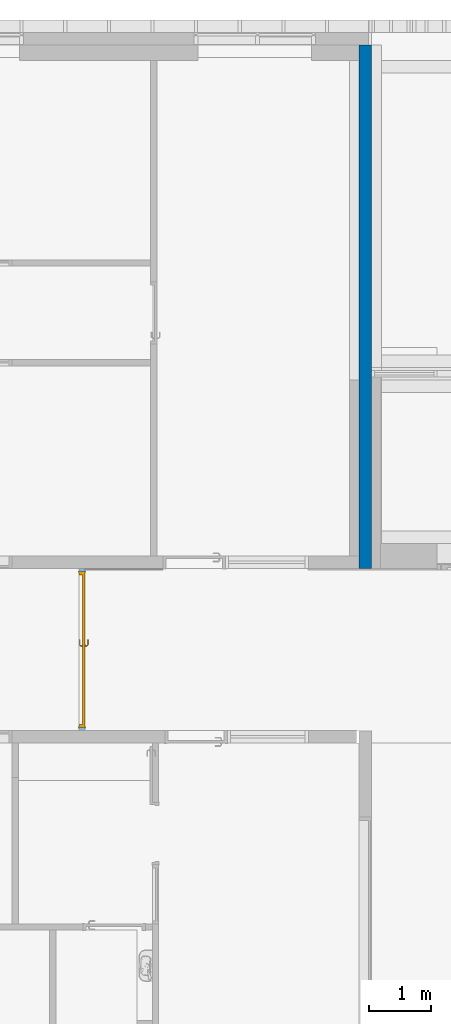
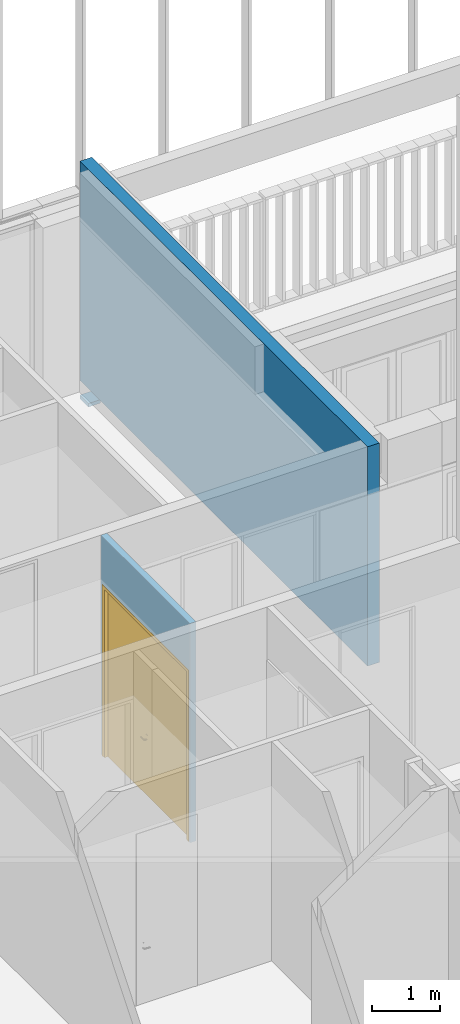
# One storey, part 220 of 240: 1 door, 1 wall, 1 opening, plus 1 element that does not belong to this part.
"""IFC2X3 building model written with IfcOpenShell, lengths in centimetres."""

import ifcopenshell
import ifcopenshell.guid

model = None  # the IFC model being written
_history = None  # IfcOwnerHistory: only IFC2X3 demands one
_inside = {}  # id of a spatial element -> (the spatial element, [elements in it])
_under = {}  # id of a project, library or spatial element -> (it, [spatial elements below it])
_declared = {}  # id of a project -> (the project, [libraries it declares])
_typed = {}  # id of a type object -> (the type object, [elements of that type])
_made_of = {}  # id of a material, layer set ... -> (it, [elements and type objects made of it])


def new_model(schema):
    """Start an empty IFC model of exactly this schema.

    Asked for "IFC4X3", IfcOpenShell would pick the latest addendum, in which some entities
    have other attributes; the version numbers below select the first issue.
    IFC2X3 requires an IfcOwnerHistory on every rooted entity: one is made here for all.
    """
    global model, _history
    if schema == "IFC4X3":
        model = ifcopenshell.file(schema_version=(4, 3, 0, 0))
    else:
        model = ifcopenshell.file(schema=schema)
    _inside.clear()
    _under.clear()
    _declared.clear()
    _typed.clear()
    _made_of.clear()
    _history = None
    if model.schema == "IFC2X3":
        org = make("IfcOrganization", Name="unknown")
        user = make(
            "IfcPersonAndOrganization",
            ThePerson=make("IfcPerson", FamilyName="unknown"),
            TheOrganization=org,
        )
        app = make(
            "IfcApplication",
            ApplicationDeveloper=org,
            Version="unknown",
            ApplicationFullName="unknown",
            ApplicationIdentifier="unknown",
        )
        _history = make(
            "IfcOwnerHistory",
            OwningUser=user,
            OwningApplication=app,
            ChangeAction="ADDED",
            CreationDate=0,
        )
    return model


def make(cls, **values):
    """One entity of the class cls with the attributes given. An attribute that is None is left unset."""
    return model.create_entity(
        cls, **{name: value for name, value in values.items() if value is not None}
    )


def entity(cls, *values):
    """Any entity or typed value of the class cls, its attributes in the order of the schema. None: left unset."""
    e = model.create_entity(cls)
    for i, value in enumerate(values):
        if value is not None:
            e[i] = value
    return e


def rooted(cls, **values):
    """An entity with a GlobalId (a new one), such as an element, a storey or a relation."""
    return make(cls, GlobalId=ifcopenshell.guid.new(), OwnerHistory=_history, **values)


def si_unit(unit_type, name, prefix=None):
    """IfcSIUnit, for example si_unit("LENGTHUNIT", "METRE", prefix="MILLI")."""
    return make("IfcSIUnit", UnitType=unit_type, Prefix=prefix, Name=name)


def converted_unit(unit_type, name, factor, base, dimensions=None, offset=None):
    """IfcConversionBasedUnit, such as the inch: factor (a typed value) times the base unit."""
    return make(
        "IfcConversionBasedUnit"
        if offset is None
        else "IfcConversionBasedUnitWithOffset",
        ConversionOffset=offset,
        Dimensions=None
        if dimensions is None
        else entity("IfcDimensionalExponents", *dimensions),
        UnitType=unit_type,
        Name=name,
        ConversionFactor=make(
            "IfcMeasureWithUnit", ValueComponent=factor, UnitComponent=base
        ),
    )


def derived_unit(unit_type, elements):
    """IfcDerivedUnit: a product of units, each with its exponent."""
    return make(
        "IfcDerivedUnit",
        Elements=[
            make("IfcDerivedUnitElement", Unit=unit, Exponent=power)
            for unit, power in elements
        ],
        UnitType=unit_type,
    )


def assignment(units):
    """IfcUnitAssignment: the units of a project."""
    return None if units is None else make("IfcUnitAssignment", Units=units)


def point(xyz):
    """IfcCartesianPoint."""
    return None if xyz is None else make("IfcCartesianPoint", Coordinates=xyz)


def direction(xyz):
    """IfcDirection."""
    return None if xyz is None else make("IfcDirection", DirectionRatios=xyz)


def frame(location, z_axis=None, x_axis=None):
    """IfcAxis2Placement3D, a coordinate frame: its origin and axes. An axis left out is left unset."""
    return make(
        "IfcAxis2Placement3D",
        Location=point(location),
        Axis=direction(z_axis),
        RefDirection=direction(x_axis),
    )


def frame_2d(location, x_axis=None):
    """IfcAxis2Placement2D, a coordinate frame in the plane: its origin and x axis."""
    return make(
        "IfcAxis2Placement2D", Location=point(location), RefDirection=direction(x_axis)
    )


def origin():
    """The frame at (0, 0, 0) with its axes left unset."""
    return frame((0.0, 0.0, 0.0))


def place(relative_to, where):
    """IfcLocalPlacement: puts the frame where relative to a parent placement (None: the world)."""
    return make(
        "IfcLocalPlacement", PlacementRelTo=relative_to, RelativePlacement=where
    )


def context(
    kind, dimensions, precision=None, world=None, true_north=None, identifier=None
):
    """IfcGeometricRepresentationContext, for example the 3D "Model" context."""
    return make(
        "IfcGeometricRepresentationContext",
        ContextIdentifier=identifier,
        ContextType=kind,
        CoordinateSpaceDimension=dimensions,
        Precision=precision,
        WorldCoordinateSystem=world,
        TrueNorth=true_north,
    )


def subcontext(parent, identifier, kind, view, scale=None):
    """IfcGeometricRepresentationSubContext, for example "Body" below "Model"."""
    return make(
        "IfcGeometricRepresentationSubContext",
        ContextIdentifier=identifier,
        ContextType=kind,
        ParentContext=parent,
        TargetScale=scale,
        TargetView=view,
    )


def project(units=None, contexts=None):
    """IfcProject with its units and contexts."""
    return rooted(
        "IfcProject",
        Name="project",
        RepresentationContexts=contexts,
        UnitsInContext=assignment(units),
    )


def spatial(cls, under=None, at=None, **own):
    """A site, building, storey or space (cls), placed at a placement, below another one or the project."""
    s = rooted(cls, ObjectPlacement=at, **own)
    if under is not None:
        _under.setdefault(under.id(), (under, []))[1].append(s)
    return s


def profile(cls, at=None, kind="AREA", **sizes):
    """A parametric profile (cls). Its sizes go by their IFC names, for example OverallWidth=200.0."""
    return make(cls, ProfileType=kind, Position=at, **sizes)


def rectangle(**sizes):
    """IfcRectangleProfileDef."""
    return profile("IfcRectangleProfileDef", **sizes)


def extrude(swept, where, along, depth):
    """IfcExtrudedAreaSolid: the profile swept, set in the frame where, extruded along a direction by depth."""
    return make(
        "IfcExtrudedAreaSolid",
        SweptArea=swept,
        Position=where,
        ExtrudedDirection=direction(along),
        Depth=depth,
    )


def faces_of(points, faces, orient=None, outer=None):
    """IfcFace entities. A face is a list of loops; a loop is a list of indices into points, from 0.

    orient and outer hold one flag for each loop. By default every Orientation is true, the
    first loop of a face is its IfcFaceOuterBound and the others are IfcFaceBound.
    """
    made = []
    for i, loops in enumerate(faces):
        bounds = []
        for j, loop in enumerate(loops):
            is_outer = j == 0 if outer is None else outer[i][j]
            bounds.append(
                make(
                    "IfcFaceOuterBound" if is_outer else "IfcFaceBound",
                    Bound=make("IfcPolyLoop", Polygon=[points[k] for k in loop]),
                    Orientation=True if orient is None else orient[i][j],
                )
            )
        made.append(make("IfcFace", Bounds=bounds))
    return made


def faceted_brep(points, faces, orient=None, outer=None, voids=None):
    """IfcFacetedBrep: a solid bounded by flat faces; with voids (closed shells), ...WithVoids."""
    shared = [point(p) for p in points]
    hull = make("IfcClosedShell", CfsFaces=faces_of(shared, faces, orient, outer))
    if voids is None:
        return make("IfcFacetedBrep", Outer=hull)
    return make(
        "IfcFacetedBrepWithVoids",
        Outer=hull,
        Voids=[
            make(cls, CfsFaces=faces_of(shared, fs, o, b)) for cls, fs, o, b in voids
        ],
    )


def shape(context_of_items, identifier, shape_type, items):
    """IfcShapeRepresentation: the items that make up one representation, for example the "Body"."""
    return make(
        "IfcShapeRepresentation",
        ContextOfItems=context_of_items,
        RepresentationIdentifier=identifier,
        RepresentationType=shape_type,
        Items=items,
    )


def source(mapping_origin, context_of_items, identifier, shape_type, items):
    """IfcRepresentationMap: a shape defined once, which mapped items show again and again."""
    return make(
        "IfcRepresentationMap",
        MappingOrigin=mapping_origin,
        MappedRepresentation=shape(context_of_items, identifier, shape_type, items),
    )


def transform(
    local_origin,
    x_axis=None,
    y_axis=None,
    z_axis=None,
    scale=None,
    scale2=None,
    scale3=None,
    uniform=True,
):
    """IfcCartesianTransformationOperator3D, or its non-uniform kind. x_axis, y_axis, z_axis: its Axis1, 2, 3."""
    if uniform:
        return make(
            "IfcCartesianTransformationOperator3D",
            Axis1=direction(x_axis),
            Axis2=direction(y_axis),
            LocalOrigin=point(local_origin),
            Scale=scale,
            Axis3=direction(z_axis),
        )
    return make(
        "IfcCartesianTransformationOperator3DnonUniform",
        Axis1=direction(x_axis),
        Axis2=direction(y_axis),
        LocalOrigin=point(local_origin),
        Scale=scale,
        Axis3=direction(z_axis),
        Scale2=scale2,
        Scale3=scale3,
    )


def mapped(mapping_source, mapping_target):
    """IfcMappedItem: shows the shape of a source again, moved by a transform."""
    return make(
        "IfcMappedItem", MappingSource=mapping_source, MappingTarget=mapping_target
    )


def material(Name=None, Category=None):
    """IfcMaterial."""
    return make("IfcMaterial", Name=Name, Category=Category)


def material_list(materials):
    """IfcMaterialList."""
    return make("IfcMaterialList", Materials=materials)


def layer(
    of_material, thickness, ventilated=None, Name=None, Category=None, Priority=None
):
    """IfcMaterialLayer: one layer of a wall or slab, of a material (None: an air gap)."""
    return make(
        "IfcMaterialLayer",
        Material=of_material,
        LayerThickness=thickness,
        IsVentilated=ventilated,
        Name=Name,
        Category=Category,
        Priority=Priority,
    )


def layer_set(layers, Name=None):
    """IfcMaterialLayerSet."""
    return make("IfcMaterialLayerSet", MaterialLayers=layers, LayerSetName=Name)


def layer_usage(for_layer_set, set_direction, sense, offset, extent=None):
    """IfcMaterialLayerSetUsage: how a layer set lies in its element."""
    return make(
        "IfcMaterialLayerSetUsage",
        ForLayerSet=for_layer_set,
        LayerSetDirection=set_direction,
        DirectionSense=sense,
        OffsetFromReferenceLine=offset,
        ReferenceExtent=extent,
    )


def made_of(thing, what):
    """Note that an element or type object is made of a material, layer set ...; save() writes the relation."""
    if what is not None:
        _made_of.setdefault(what.id(), (what, []))[1].append(thing)
    return thing


def type_object(cls, material=None, **own):
    """A type object (cls), such as IfcWallType, which elements share."""
    return made_of(rooted(cls, **own), material)


def type_shapes(of_type, sources):
    """Give a type object the sources (RepresentationMaps) that its elements show as mapped items."""
    of_type.RepresentationMaps = sources


def element(
    cls,
    number,
    at=None,
    inside=None,
    cuts=None,
    type_object=None,
    material=None,
    context=None,
    identifier="Body",
    shape_type=None,
    held_by="IfcProductDefinitionShape",
    body=None,
    shapes=None,
    **own,
):
    """One element of the class cls, such as IfcWall. Its Tag is "e" and its number.

    at: its placement. inside: the storey or other place that contains it. cuts: it is an
    opening in that element (IfcRelVoidsElement). A single representation is given by context,
    identifier, shape_type and body (its items); several are given by shapes. held_by: the class
    of the entity that holds the representations. save() writes the other relations.
    """
    e = rooted(cls, Tag="e%d" % number, ObjectPlacement=at, **own)
    if body is not None:
        shapes = [shape(context, identifier, shape_type, body)]
    if shapes is not None:
        e.Representation = make(held_by, Representations=shapes)
    if inside is not None:
        _inside.setdefault(inside.id(), (inside, []))[1].append(e)
    if cuts is not None:
        rooted(
            "IfcRelVoidsElement", RelatingBuildingElement=cuts, RelatedOpeningElement=e
        )
    if type_object is not None:
        _typed.setdefault(type_object.id(), (type_object, []))[1].append(e)
    return made_of(e, material)


def fill(opening, filler):
    """IfcRelFillsElement: the door or window that sits in an opening."""
    return rooted(
        "IfcRelFillsElement",
        RelatingOpeningElement=opening,
        RelatedBuildingElement=filler,
    )


def aggregate(whole, parts):
    """IfcRelAggregates: a whole, such as a stair, and the parts it consists of."""
    return rooted("IfcRelAggregates", RelatingObject=whole, RelatedObjects=parts)


def save(model, path):
    """Write the relations noted so far, then the file.

    IfcRelAggregates (storeys below a building ...), IfcRelContainedInSpatialStructure (elements
    in a storey), IfcRelDefinesByType, IfcRelAssociatesMaterial and IfcRelDeclares: one each for
    every whole, place, type object, material and project.
    """
    for whole, parts in _under.values():
        aggregate(whole, parts)
    for where, things in _inside.values():
        rooted(
            "IfcRelContainedInSpatialStructure",
            RelatedElements=things,
            RelatingStructure=where,
        )
    for kind, things in _typed.values():
        rooted("IfcRelDefinesByType", RelatedObjects=things, RelatingType=kind)
    for what, things in _made_of.values():
        rooted("IfcRelAssociatesMaterial", RelatedObjects=things, RelatingMaterial=what)
    for by, libraries in _declared.values():
        rooted("IfcRelDeclares", RelatingContext=by, RelatedDefinitions=libraries)
    model.write(path)


model = new_model("IFC2X3")

# Units and contexts
model_context = context("Model", 3, precision=0.001, world=origin(), true_north=direction((6.12303176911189e-17, 1.0)))
body_context = subcontext(model_context, "Body", "Model", "MODEL_VIEW")
ifc_project = project(units=[si_unit("LENGTHUNIT", "METRE", prefix="CENTI"), si_unit("AREAUNIT", "SQUARE_METRE"), si_unit("VOLUMEUNIT", "CUBIC_METRE"), converted_unit("PLANEANGLEUNIT", "DEGREE", entity("IfcRatioMeasure", 0.0174532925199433), si_unit("PLANEANGLEUNIT", "RADIAN"), dimensions=[0, 0, 0, 0, 0, 0, 0]), si_unit("MASSUNIT", "GRAM", prefix="KILO"), derived_unit("MASSDENSITYUNIT", [(si_unit("MASSUNIT", "GRAM", prefix="KILO"), 1), (si_unit("LENGTHUNIT", "METRE"), -3)]), si_unit("TIMEUNIT", "SECOND"), si_unit("FREQUENCYUNIT", "HERTZ"), si_unit("THERMODYNAMICTEMPERATUREUNIT", "DEGREE_CELSIUS"), derived_unit("THERMALTRANSMITTANCEUNIT", [(si_unit("MASSUNIT", "GRAM", prefix="KILO"), 1), (si_unit("THERMODYNAMICTEMPERATUREUNIT", "KELVIN"), -1), (si_unit("TIMEUNIT", "SECOND"), -3)]), derived_unit("VOLUMETRICFLOWRATEUNIT", [(si_unit("LENGTHUNIT", "METRE"), 3), (si_unit("TIMEUNIT", "SECOND"), -1)]), si_unit("ELECTRICCURRENTUNIT", "AMPERE"), si_unit("ELECTRICVOLTAGEUNIT", "VOLT"), si_unit("POWERUNIT", "WATT"), si_unit("FORCEUNIT", "NEWTON", prefix="KILO"), si_unit("ILLUMINANCEUNIT", "LUX"), si_unit("LUMINOUSFLUXUNIT", "LUMEN"), si_unit("LUMINOUSINTENSITYUNIT", "CANDELA"), derived_unit("USERDEFINED", [(si_unit("MASSUNIT", "GRAM", prefix="KILO"), -1), (si_unit("LENGTHUNIT", "METRE"), -2), (si_unit("TIMEUNIT", "SECOND"), 3), (si_unit("LUMINOUSFLUXUNIT", "LUMEN"), 1)]), derived_unit("LINEARVELOCITYUNIT", [(si_unit("LENGTHUNIT", "METRE"), 1), (si_unit("TIMEUNIT", "SECOND"), -1)]), si_unit("PRESSUREUNIT", "PASCAL"), derived_unit("USERDEFINED", [(si_unit("LENGTHUNIT", "METRE"), -2), (si_unit("MASSUNIT", "GRAM", prefix="KILO"), 1), (si_unit("TIMEUNIT", "SECOND"), -2)])], contexts=[model_context])

# Site, building, storey
site_placement = place(None, frame((-2781.94577612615, 7442.24238424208, 0.0)))
site = spatial("IfcSite", under=ifc_project, at=site_placement, Name="Default", CompositionType="ELEMENT")
building_placement = place(site_placement, origin())
building = spatial("IfcBuilding", under=site, at=building_placement, CompositionType="ELEMENT")
storey_placement = place(building_placement, origin())
storey = spatial("IfcBuildingStorey", under=building, at=storey_placement, Name="N00 - COO", CompositionType="ELEMENT", Elevation=0.0)

# Wall
ifc_material_1 = material(Name="01 - Maçonnerie")
ifc_layer_1 = layer(ifc_material_1, 20.0)
ifc_layer_set_1 = layer_set([ifc_layer_1], Name="Mur de base:04 - Structure - béton - 20cm")
wall_type_1 = type_object("IfcWallType", Name="Mur de base:04 - Structure - béton - 20cm", PredefinedType="STANDARD", material=ifc_layer_set_1)
wall_1_placement = place(building_placement, frame((-4777.99987760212, -830.048500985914, -32.3739856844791), z_axis=(0.0, 0.0, 1.0), x_axis=(0.0, 1.0, 0.0)))
element("IfcWall", 1, at=wall_1_placement, inside=storey, type_object=wall_type_1, Name="Mur de base:04 - Structure - béton - 20cm", ObjectType="Mur de base:04 - Structure - béton - 20cm", context=body_context, shape_type="Brep", body=[
    faceted_brep([(840.04850098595, -10.0, 423.373985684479), (815.048500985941, -10.0, 423.373985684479), (322.499999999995, -10.0, 423.373985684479), (302.499999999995, -10.0, 423.373985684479), (0.0, -10.0, 423.373985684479), (0.0, -10.0, 32.3739856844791), (307.649999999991, -10.0, 32.3739856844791), (321.500000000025, -10.0, 32.3739856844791), (321.500000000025, -10.0, 12.3739856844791), (321.500000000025, -10.0, 6.37398568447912), (814.891933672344, -10.0, 6.37398568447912), (814.891933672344, -10.0, 0.0), (820.04850098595, -10.0, 0.0), (840.04850098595, -10.0, 0.0), (840.04850098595, 10.0, 6.37398568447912), (840.04850098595, 10.0, 0.0), (820.04850098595, 10.0, 0.0), (814.891933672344, 10.0, 0.0), (814.891933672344, 10.0, 6.37398568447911), (820.04850098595, 10.0, 6.37398568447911), (0.0, 10.0, 423.373985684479), (0.0, 10.0, 32.3739856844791), (840.04850098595, 10.0, 423.373985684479), (815.048500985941, 10.0, 423.373985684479), (20.0, 10.0, 423.373985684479), (840.04850098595, -8.7255648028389, 6.37398568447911), (840.04850098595, -8.7255648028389, 32.3739856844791), (840.04850098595, 10.0, 32.3739856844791), (840.04850098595, 10.0, 345.373985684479), (321.500000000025, -8.72556480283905, 32.3739856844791), (20.0, 10.0, 32.3739856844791), (815.04850098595, 10.0, 32.3739856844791), (321.500000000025, -8.72556480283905, 6.37398568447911), (814.891933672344, -8.72556480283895, 6.37398568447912)], [[[0, 1, 2, 3, 4, 5, 6, 7, 8, 9, 10, 11, 12, 13]], [[14, 15, 16, 17, 18, 19]], [[15, 13, 12, 11, 17, 16]], [[4, 20, 21, 5]], [[1, 0, 22, 23]], [[4, 3, 2, 1, 23, 24, 20]], [[13, 15, 14, 25, 26, 27, 28, 22, 0]], [[29, 7, 6, 5, 21, 30, 31, 27, 26]], [[32, 29, 26, 25, 33]], [[29, 32, 9, 8, 7]], [[25, 14, 19, 18, 33]], [[10, 33, 18, 17, 11]], [[33, 10, 9, 32]], [[23, 22, 28, 27, 31, 30, 21, 20, 24]]]),
])

# Wall, opening, door
ifc_material_2 = material(Name="01 - Enduit/Plâtre")
ifc_layer_2 = layer(ifc_material_2, 1.3)
ifc_material_3 = material(Name="00 - Isolant")
ifc_layer_3 = layer(ifc_material_3, 7.4)
ifc_layer_4 = layer(ifc_material_2, 1.3)
ifc_layer_set_2 = layer_set([ifc_layer_2, ifc_layer_3, ifc_layer_4], Name="Mur de base:06 - cloisons - Ba13 10cm")
ifc_layer_usage = layer_usage(ifc_layer_set_2, "AXIS2", "NEGATIVE", 5.0)
wall_type_2 = type_object("IfcWallType", Name="Mur de base:06 - cloisons - Ba13 10cm", PredefinedType="STANDARD", material=ifc_layer_set_2)
wall_2_placement = place(building_placement, frame((-5232.49987760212, -830.048500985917, 0.0), z_axis=(0.0, 0.0, 1.0), x_axis=(0.0, -1.0, 0.0)))
wall_2 = element("IfcWallStandardCase", 2, at=wall_2_placement, inside=storey, type_object=wall_type_2, material=ifc_layer_usage, Name="Mur de base:06 - cloisons - Ba13 10cm", ObjectType="Mur de base:06 - cloisons - Ba13 10cm", context=body_context, shape_type="SweptSolid", body=[
    extrude(rectangle(XDim=259.95149891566, YDim=9.99999999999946, at=frame_2d((129.97574945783, 0.0), x_axis=(-1.0, 0.0))), origin(), (0.0, 0.0, 1.0), 391.0),
])
opening_placement = place(wall_2_placement, frame((4.97574945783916, -5.0, 0.0)))
opening = element("IfcOpeningElement", 3, at=opening_placement, cuts=wall_2, Name="Int. Double:PV (2.50m x 3.06m):1", ObjectType="Opening", context=body_context, shape_type="SweptSolid", body=[
    extrude(rectangle(XDim=304.500000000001, YDim=250.0, at=frame_2d((152.250000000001, 125.0), x_axis=(1.0, 0.0))), frame((0.0, 0.0, 0.0), z_axis=(0.0, 1.0, 0.0), x_axis=(0.0, 0.0, 1.0)), (0.0, 0.0, 1.0), 10.0),
])
ifc_material_4 = material(Name="Bois - Panneau de porte")
ifc_material_5 = material(Name="Finition Peinture - Blanc satiné")
ifc_material_6 = material(Name="Bois - Cadre de porte")
ifc_material_list_1 = material_list([ifc_material_4, ifc_material_5, ifc_material_6])
ifc_material_list_2 = material_list([ifc_material_4, ifc_material_5, ifc_material_6])
door_style = type_object("IfcDoorStyle", Name="PV (2.50m x 3.06m)", ConstructionType="NOTDEFINED", OperationType="DOUBLE_DOOR_SINGLE_SWING", ParameterTakesPrecedence=False, Sizeable=False, material=ifc_material_list_2)
shared_shape = source(origin(), body_context, "Body", "Brep", [
    faceted_brep([(125.0, 4.0, 301.0), (125.0, 4.0, 0.0), (3.50000000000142, 4.0, 0.0), (3.50000000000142, 4.0, 301.0), (125.0, 0.0, 301.0), (3.50000000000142, 0.0, 301.0), (3.50000000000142, 0.0, 0.0), (125.0, 0.0, 0.0)], [[[0, 1, 2, 3]], [[4, 5, 6, 7]], [[3, 5, 4, 0]], [[2, 6, 5, 3]], [[1, 7, 6, 2]], [[0, 4, 7, 1]]]),
    faceted_brep([(132.035276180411, -0.500000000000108, 86.6003983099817), (133.0, -0.500000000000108, 87.0), (133.0, -0.500000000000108, 108.0), (132.035276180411, -0.500000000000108, 108.399601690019), (131.0, -0.500000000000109, 108.535898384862), (129.964723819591, -0.500000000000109, 108.399601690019), (129.0, -0.50000000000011, 108.0), (129.0, -0.50000000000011, 87.0), (129.964723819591, -0.500000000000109, 86.6003983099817), (131.0, -0.500000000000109, 86.464101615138), (132.035276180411, 0.0, 108.399601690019), (133.0, 0.0, 108.0), (133.0, 0.0, 87.0), (132.035276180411, 0.0, 86.6003983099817), (131.0, 0.0, 86.464101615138), (129.964723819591, 0.0, 86.6003983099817), (129.0, 0.0, 87.0), (129.0, 0.0, 108.0), (129.964723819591, 0.0, 108.399601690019), (131.0, 0.0, 108.535898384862)], [[[0, 1, 2, 3, 4, 5, 6, 7, 8, 9]], [[10, 11, 12, 13, 14, 15, 16, 17, 18, 19]], [[16, 15, 8, 7]], [[8, 15, 14, 9]], [[14, 13, 0, 9]], [[13, 12, 1, 0]], [[2, 1, 12, 11]], [[11, 10, 3, 2]], [[3, 10, 19, 4]], [[19, 18, 5, 4]], [[18, 17, 6, 5]], [[7, 6, 17, 16]]]),
    faceted_brep([(132.035276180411, 4.0, 86.6003983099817), (133.0, 4.0, 87.0), (133.0, 4.0, 108.0), (132.035276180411, 4.0, 108.399601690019), (131.0, 4.0, 108.535898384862), (129.964723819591, 4.0, 108.399601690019), (129.0, 4.0, 108.0), (129.0, 4.0, 87.0), (129.964723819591, 4.0, 86.6003983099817), (131.0, 4.0, 86.464101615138), (132.035276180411, 4.49999999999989, 108.399601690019), (133.0, 4.49999999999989, 108.0), (133.0, 4.49999999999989, 87.0), (132.035276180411, 4.49999999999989, 86.6003983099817), (131.0, 4.49999999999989, 86.464101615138), (129.964723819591, 4.49999999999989, 86.6003983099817), (129.0, 4.49999999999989, 87.0), (129.0, 4.49999999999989, 108.0), (129.964723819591, 4.49999999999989, 108.399601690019), (131.0, 4.49999999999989, 108.535898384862)], [[[0, 1, 2, 3, 4, 5, 6, 7, 8, 9]], [[10, 11, 12, 13, 14, 15, 16, 17, 18, 19]], [[11, 10, 3, 2]], [[3, 10, 19, 4]], [[19, 18, 5, 4]], [[18, 17, 6, 5]], [[7, 6, 17, 16]], [[16, 15, 8, 7]], [[8, 15, 14, 9]], [[14, 13, 0, 9]], [[13, 12, 1, 0]], [[2, 1, 12, 11]]]),
    faceted_brep([(130.797470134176, -0.500000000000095, 100.778044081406), (131.202529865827, -0.500000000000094, 100.778044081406), (131.600000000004, -0.500000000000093, 100.699999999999), (131.600000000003, -0.500000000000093, 99.3000000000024), (131.202529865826, -0.500000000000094, 99.2219559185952), (130.797470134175, -0.500000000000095, 99.221955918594), (130.399999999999, -0.500000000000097, 99.2999999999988), (130.399999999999, -0.500000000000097, 100.7), (130.399999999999, -3.26509507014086, 100.7), (130.797470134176, -3.10045754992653, 100.778044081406), (132.402358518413, -4.70534593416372, 100.778044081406), (132.570139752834, -4.30028620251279, 100.778044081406), (131.202529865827, -2.93267631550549, 100.778044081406), (131.600000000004, -2.76803879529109, 100.7), (131.600000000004, -2.76803879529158, 99.3000000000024), (131.202529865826, -2.93267631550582, 99.2219559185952), (132.570139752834, -4.30028620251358, 99.2219559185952), (132.402358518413, -4.7053459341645, 99.221955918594), (130.797470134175, -3.10045754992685, 99.221955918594), (130.399999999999, -3.26509507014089, 99.2999999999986), (132.237720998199, -5.10281606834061, 100.7), (132.734777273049, -3.90281606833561, 100.7), (132.734777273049, -3.90281606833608, 99.3000000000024), (132.237720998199, -5.10281606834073, 99.2999999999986), (141.001864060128, -5.10281606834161, 99.2999999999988), (141.001864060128, -4.70534593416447, 99.221955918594), (141.001864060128, -4.30028620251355, 99.2219559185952), (141.001864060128, -3.9028160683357, 99.3000000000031), (141.001864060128, -3.90281606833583, 100.7), (141.001864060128, -4.30028620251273, 100.778044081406), (141.001864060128, -4.70534593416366, 100.778044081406), (141.001864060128, -5.10281606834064, 100.699999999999), (136.230769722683, -5.10281606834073, 100.7), (136.78600190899, -4.50281606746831, 100.78786867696), (136.868320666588, -3.9028160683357, 100.7), (136.868320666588, -3.9028160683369, 99.3000000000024), (136.786001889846, -4.50281607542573, 99.2121313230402), (136.230770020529, -5.10281606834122, 99.2999999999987)], [[[0, 1, 2, 3, 4, 5, 6, 7]], [[8, 9, 0, 7]], [[9, 10, 11, 12, 1, 0]], [[12, 13, 2, 1]], [[3, 2, 13, 14]], [[14, 15, 4, 3]], [[15, 16, 17, 18, 5, 4]], [[18, 19, 6, 5]], [[7, 6, 19, 8]], [[20, 10, 9, 8]], [[11, 21, 13, 12]], [[14, 13, 21, 22]], [[22, 16, 15, 14]], [[17, 23, 19, 18]], [[8, 19, 23, 20]], [[24, 25, 26, 27, 28, 29, 30, 31]], [[32, 30, 33]], [[31, 30, 32]], [[10, 20, 32]], [[33, 34, 11]], [[21, 11, 34]], [[34, 29, 28]], [[30, 29, 33]], [[29, 34, 33]], [[10, 32, 33]], [[10, 33, 11]], [[22, 21, 34, 28, 27, 35]], [[35, 26, 36]], [[37, 36, 25]], [[22, 35, 16]], [[35, 27, 26]], [[24, 37, 25]], [[23, 17, 37]], [[37, 17, 36]], [[17, 16, 36]], [[16, 35, 36]], [[25, 36, 26]], [[20, 23, 37, 24, 31, 32]]]),
    faceted_brep([(130.797470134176, 4.4999999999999, 100.778044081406), (130.399999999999, 4.4999999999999, 100.7), (130.399999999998, 4.4999999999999, 99.2999999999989), (130.797470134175, 4.4999999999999, 99.221955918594), (131.202529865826, 4.4999999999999, 99.2219559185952), (131.600000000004, 4.49999999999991, 99.3000000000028), (131.600000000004, 4.49999999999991, 100.7), (131.202529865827, 4.4999999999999, 100.778044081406), (131.600000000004, 6.7485204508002, 99.3000000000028), (131.600000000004, 6.74852045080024, 100.7), (131.202529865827, 6.91315797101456, 100.778044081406), (132.583890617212, 8.29451872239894, 100.778044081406), (132.416109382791, 8.69957845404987, 100.778044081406), (130.797470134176, 7.08093920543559, 100.778044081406), (130.399999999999, 7.24557672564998, 100.7), (130.399999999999, 7.2455767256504, 99.2999999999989), (130.797470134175, 7.08093920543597, 99.221955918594), (132.41610938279, 8.69957845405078, 99.221955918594), (132.583890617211, 8.29451872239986, 99.2219559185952), (131.202529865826, 6.91315797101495, 99.2219559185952), (132.748528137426, 7.89704858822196, 99.3000000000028), (132.748528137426, 7.89704858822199, 100.7), (132.251471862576, 9.09704858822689, 100.7), (132.251471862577, 9.0970485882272, 99.2999999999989), (141.004578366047, 7.89704858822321, 99.3000000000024), (141.004578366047, 8.29451872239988, 99.2219559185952), (141.004578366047, 8.6995784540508, 99.221955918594), (141.004578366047, 9.09704858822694, 99.2999999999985), (141.004578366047, 9.09704858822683, 100.7), (141.004578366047, 8.69957845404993, 100.778044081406), (141.004578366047, 8.294518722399, 100.778044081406), (141.004578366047, 7.89704858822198, 100.7), (136.876552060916, 7.89704858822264, 99.3000000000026), (136.876553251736, 7.89704858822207, 100.7), (136.794234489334, 8.49704858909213, 100.78786867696), (136.244520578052, 9.09704858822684, 100.7), (136.244520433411, 9.09704858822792, 99.2999999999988), (136.794234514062, 8.49704858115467, 99.2121313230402)], [[[0, 1, 2, 3, 4, 5, 6, 7]], [[6, 5, 8, 9]], [[9, 10, 7, 6]], [[10, 11, 12, 13, 0, 7]], [[13, 14, 1, 0]], [[2, 1, 14, 15]], [[15, 16, 3, 2]], [[16, 17, 18, 19, 4, 3]], [[19, 8, 5, 4]], [[9, 8, 20, 21]], [[21, 11, 10, 9]], [[12, 22, 14, 13]], [[15, 14, 22, 23]], [[23, 17, 16, 15]], [[18, 20, 8, 19]], [[24, 25, 26, 27, 28, 29, 30, 31]], [[21, 20, 32, 24, 31, 33]], [[33, 30, 34]], [[35, 34, 29]], [[21, 33, 11]], [[33, 31, 30]], [[28, 35, 29]], [[22, 12, 35]], [[35, 12, 34]], [[12, 11, 34]], [[11, 33, 34]], [[29, 34, 30]], [[22, 35, 28, 27, 36, 23]], [[36, 26, 37]], [[27, 26, 36]], [[17, 23, 36]], [[37, 32, 18]], [[20, 18, 32]], [[32, 25, 24]], [[26, 25, 37]], [[25, 32, 37]], [[17, 36, 37]], [[17, 37, 18]]]),
    faceted_brep([(125.0, 4.0, 301.0), (246.500000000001, 4.0, 301.0), (246.500000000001, 4.0, 0.0), (125.0, 4.0, 0.0), (125.0, 0.0, 301.0), (125.0, 0.0, 0.0), (246.500000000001, 0.0, 0.0), (246.500000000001, 0.0, 301.0)], [[[0, 1, 2, 3]], [[4, 5, 6, 7]], [[1, 0, 4, 7]], [[2, 1, 7, 6]], [[3, 2, 6, 5]], [[0, 3, 5, 4]]]),
    faceted_brep([(0.0, 0.0, 0.0), (0.0, 10.0, 0.0), (5.0, 10.0, 0.0), (5.0, 4.0, 0.0), (3.50000000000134, 4.0, 0.0), (3.50000000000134, 0.0, 0.0), (0.0, 0.0, 304.500000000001), (0.0, 10.0, 304.500000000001), (250.0, 10.0, 304.500000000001), (250.0, 10.0, 0.0), (245.0, 10.0, 0.0), (245.0, 10.0, 299.5), (5.0, 10.0, 299.5), (5.0, 4.0, 299.5), (245.0, 4.0, 299.5), (245.0, 4.0, 0.0), (246.499999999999, 4.0, 0.0), (246.499999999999, 4.0, 301.0), (3.50000000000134, 4.0, 301.0), (3.50000000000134, 0.0, 301.0), (246.499999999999, 0.0, 301.0), (246.499999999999, 0.0, 0.0), (250.0, 0.0, 0.0), (250.0, 0.0, 304.500000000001)], [[[0, 1, 2, 3, 4, 5]], [[1, 0, 6, 7]], [[2, 1, 7, 8, 9, 10, 11, 12]], [[3, 2, 12, 13]], [[4, 3, 13, 14, 15, 16, 17, 18]], [[5, 4, 18, 19]], [[0, 5, 19, 20, 21, 22, 23, 6]], [[8, 23, 22, 9]], [[22, 21, 16, 15, 10, 9]], [[14, 11, 10, 15]], [[20, 17, 16, 21]], [[7, 6, 23, 8]], [[13, 12, 11, 14]], [[19, 18, 17, 20]]]),
    faceted_brep([(1.50000000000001, 10.0, 0.0), (-1.50000000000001, 10.0, 0.0), (-1.50000000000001, 10.5000000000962, 0.0), (1.50000000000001, 10.5000000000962, 0.0), (1.50000000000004, 10.0, 303.0), (248.5, 10.0, 303.0), (248.5, 10.0, 0.0), (251.5, 10.0, 0.0), (251.5, 10.0, 306.0), (-1.50000000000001, 10.0, 306.0), (-1.50000000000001, 10.5000000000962, 306.0), (251.5, 10.5000000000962, 306.0), (251.5, 10.5000000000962, 0.0), (248.5, 10.5000000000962, 0.0), (248.5, 10.5000000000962, 303.0), (1.49999999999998, 10.5000000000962, 303.0)], [[[0, 1, 2, 3]], [[1, 0, 4, 5, 6, 7, 8, 9]], [[2, 1, 9, 10]], [[3, 2, 10, 11, 12, 13, 14, 15]], [[0, 3, 15, 4]], [[5, 14, 13, 6]], [[6, 13, 12, 7]], [[11, 8, 7, 12]], [[10, 9, 8, 11]], [[4, 15, 14, 5]]]),
    faceted_brep([(-1.50000000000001, -0.500000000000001, 0.0), (1.50000000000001, -0.500000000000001, 0.0), (1.50000000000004, -0.500000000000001, 303.0), (248.5, -0.500000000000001, 303.0), (248.5, -0.500000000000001, 0.0), (251.5, -0.500000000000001, 0.0), (251.5, -0.500000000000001, 306.0), (-1.50000000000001, -0.500000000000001, 306.0), (-1.50000000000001, 0.0, 0.0), (-1.50000000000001, 0.0, 306.0), (1.50000000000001, 0.0, 0.0), (251.5, 0.0, 306.0), (251.5, 0.0, 0.0), (248.5, 0.0, 0.0), (248.5, 0.0, 303.0), (1.49999999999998, 0.0, 303.0)], [[[0, 1, 2, 3, 4, 5, 6, 7]], [[8, 0, 7, 9]], [[10, 8, 9, 11, 12, 13, 14, 15]], [[1, 10, 15, 2]], [[3, 14, 13, 4]], [[11, 6, 5, 12]], [[9, 7, 6, 11]], [[2, 15, 14, 3]], [[4, 13, 12, 5]], [[1, 0, 8, 10]]]),
])
type_shapes(door_style, [shared_shape])
door_placement = place(opening_placement, frame((250.0, 10.0, 0.0), z_axis=(0.0, 0.0, 1.0), x_axis=(-1.0, 0.0, 0.0)))
door = element("IfcDoor", 4, at=door_placement, inside=storey, type_object=door_style, material=ifc_material_list_1, Name="Int. Double:PV (2.50m x 3.06m)", ObjectType="Int. Double:PV (2.50m x 3.06m)", OverallHeight=304.500000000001, OverallWidth=250.0, context=body_context, shape_type="MappedRepresentation", body=[
    mapped(shared_shape, transform((0.0, 0.0, 0.0), scale=1.0)),
])
fill(opening, door)

save(model, "model.ifc")
